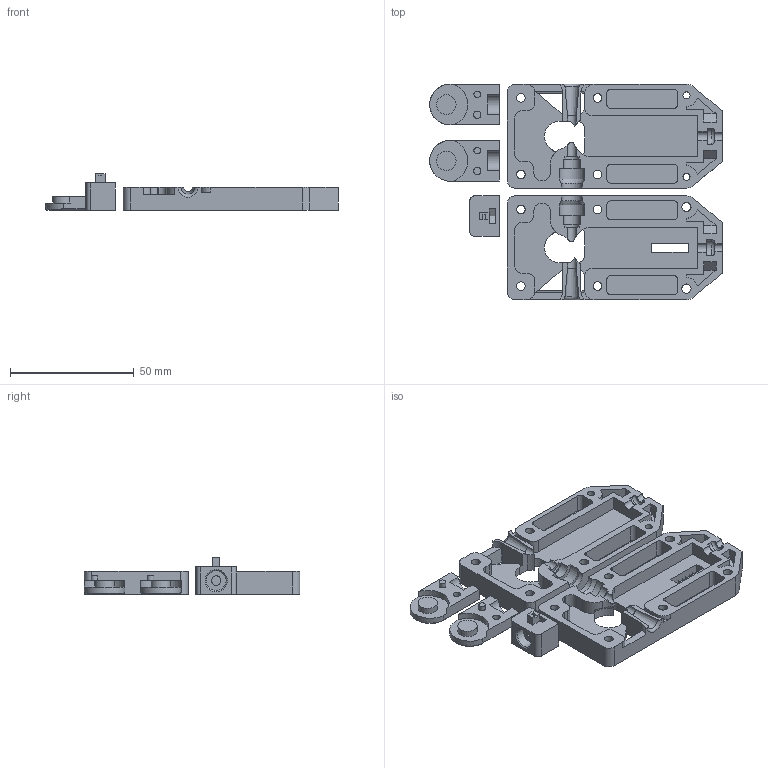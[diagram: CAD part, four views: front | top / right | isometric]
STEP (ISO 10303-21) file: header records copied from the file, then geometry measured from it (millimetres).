
FILE_DESCRIPTION(/* description */ (''),/* implementation_level */ '2;1');
FILE_NAME(/* name */ 'S:\Feeder\SP3D Feeder (stock nut).stp',/* time_stamp */ '2014-09-13T19:32:00-04:00',/* author */ ('Workstation'),/* organization */ (''),/* preprocessor_version */ 'ST-DEVELOPER v15.2',/* originating_system */ 'Autodesk Inventor 2014',/* authorisation */ '');
FILE_SCHEMA (('AUTOMOTIVE_DESIGN { 1 0 10303 214 3 1 1 }'));
Products named in the file (5): bearing_holder; Fase6; Fase6_MIR1; ass_end 2; Assembly1
Bounding box: 118.42 x 87.17 x 14.85 mm (x, y, z)
Volume: 42880 mm3; surface area: 29490.9 mm2
Topology: 5 solids, 5 shells, 358 faces, 1073 edges, 789 vertices
Faces by surface type: plane 220, cylinder 119, cone 13, torus 6
Full cylindrical faces by diameter (mm): 2.7 x2, 2.85 x2, 3 x2, 3.5 x8, 3.7 x2, 3.84 x2, 7.9 x2, 8 x1
Entity records: 11939 total; most frequent: CARTESIAN_POINT 2491, DIRECTION 1960, ORIENTED_EDGE 1856, EDGE_CURVE 928, LINE 680, VECTOR 680, AXIS2_PLACEMENT_3D 640, VERTEX_POINT 627
